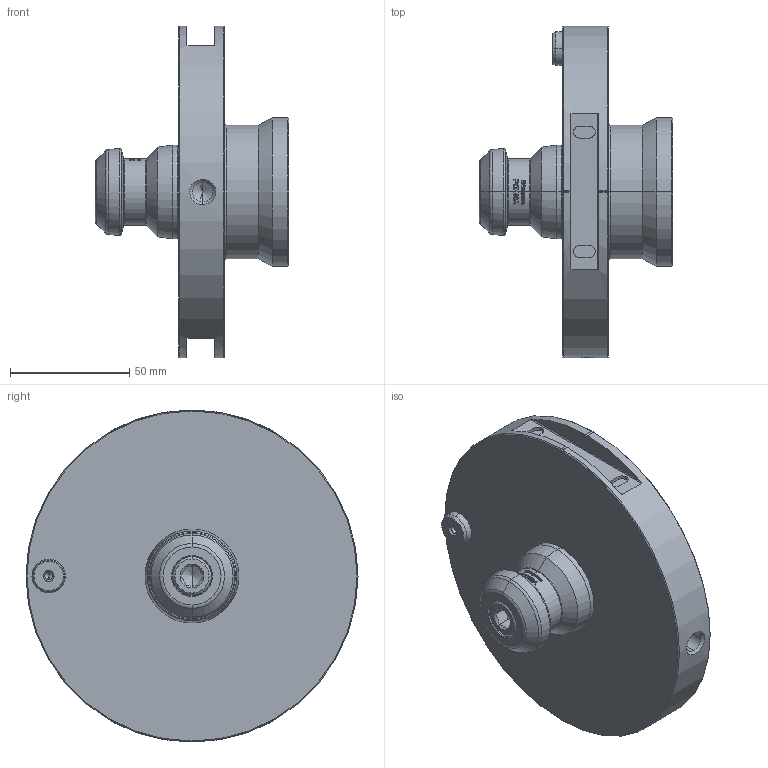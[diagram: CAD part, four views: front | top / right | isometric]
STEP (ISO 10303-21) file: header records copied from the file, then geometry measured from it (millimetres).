
FILE_DESCRIPTION (( 'STEP AP203' ), '1' );
FILE_NAME ('61P296277.STEP', '2024-04-26T07:02:18', ( '' ), ( '' ), 'SwSTEP 2.0', 'SolidWorks 2022', '' );
FILE_SCHEMA (( 'CONFIG_CONTROL_DESIGN' ));
Length unit declared in the file: millimetre
Products named in the file (5): 61P493325; 61P864258; 61P293306; 0030110045; 61P296277
Assembly tree (4 placements, depth 2):
  61P296277
    61P864258
    61P293306
    61P493325
    0030110045
Bounding box: 81 x 139 x 139 mm (x, y, z)
Volume: 349389.3 mm3; surface area: 66777 mm2
Topology: 4 solids, 4 shells, 415 faces, 1671 edges, 1299 vertices
Faces by surface type: plane 137, cone 104, cylinder 103, bspline 53, torus 18
Entity records: 20867 total; most frequent: CARTESIAN_POINT 8011, ORIENTED_EDGE 3290, DIRECTION 1972, EDGE_CURVE 1645, VERTEX_POINT 1299, AXIS2_PLACEMENT_3D 705, VECTOR 562, LINE 562
